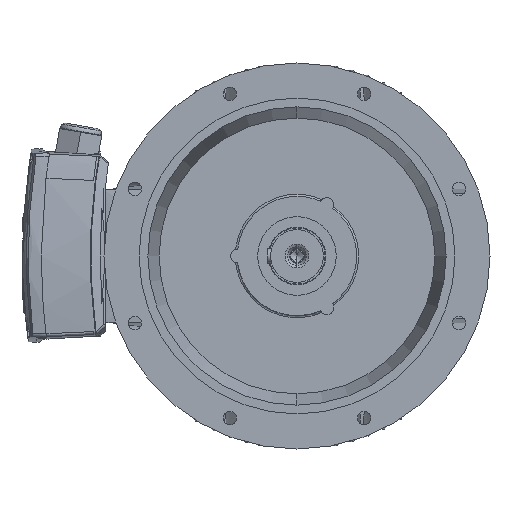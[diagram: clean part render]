
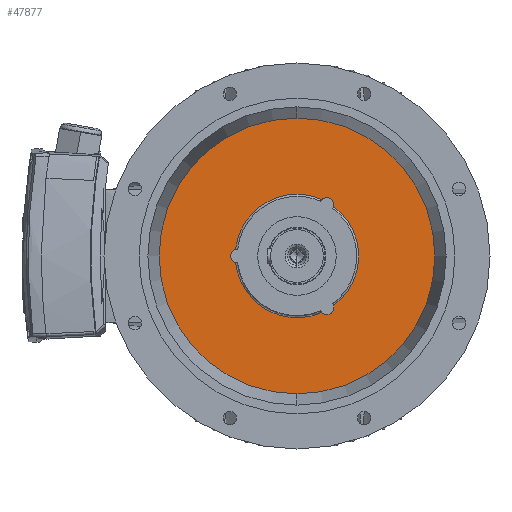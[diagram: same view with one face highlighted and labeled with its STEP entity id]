
A CAD part, left-side view. The second image highlights one B-rep face of the part: STEP entity #47877.
In plain terms, the highlighted planar face has unit normal (-1, 0, 0) as drawn and (0, 0, 1) by its records, which use the part's own axes.
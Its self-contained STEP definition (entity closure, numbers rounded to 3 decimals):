
#46221=CARTESIAN_POINT('',(0.,0.,-13.));
#46222=DIRECTION('',(0.,0.,1.));
#46223=DIRECTION('',(1.,0.,0.));
#46224=AXIS2_PLACEMENT_3D('',#46221,#46222,#46223);
#46226=CARTESIAN_POINT('',(0.,0.,-13.));
#46227=DIRECTION('',(0.,0.,1.));
#46228=DIRECTION('',(-1.,0.,0.));
#46229=AXIS2_PLACEMENT_3D('',#46226,#46227,#46228);
#46231=CARTESIAN_POINT('',(0.,0.,-13.));
#46232=DIRECTION('',(0.,0.,-1.));
#46233=DIRECTION('',(-0.107,-0.994,0.));
#46234=AXIS2_PLACEMENT_3D('',#46231,#46232,#46233);
#46236=CARTESIAN_POINT('',(0.,-85.,-13.));
#46237=DIRECTION('',(0.,0.,-1.));
#46238=DIRECTION('',(0.966,-0.257,0.));
#46239=AXIS2_PLACEMENT_3D('',#46236,#46237,#46238);
#46241=CARTESIAN_POINT('',(0.,0.,-13.));
#46242=DIRECTION('',(0.,0.,-1.));
#46243=DIRECTION('',(0.914,0.405,0.));
#46244=AXIS2_PLACEMENT_3D('',#46241,#46242,#46243);
#46246=CARTESIAN_POINT('',(73.612,42.5,-13.));
#46247=DIRECTION('',(0.,0.,-1.));
#46248=DIRECTION('',(1.,0.,0.));
#46249=AXIS2_PLACEMENT_3D('',#46246,#46247,#46248);
#46251=CARTESIAN_POINT('',(73.612,42.5,-13.));
#46252=DIRECTION('',(0.,0.,-1.));
#46253=DIRECTION('',(-0.261,0.965,0.));
#46254=AXIS2_PLACEMENT_3D('',#46251,#46252,#46253);
#46256=CARTESIAN_POINT('',(0.,0.,-13.));
#46257=DIRECTION('',(0.,0.,-1.));
#46258=DIRECTION('',(-0.808,0.59,0.));
#46259=AXIS2_PLACEMENT_3D('',#46256,#46257,#46258);
#46261=CARTESIAN_POINT('',(-73.612,42.5,-13.));
#46262=DIRECTION('',(0.,0.,-1.));
#46263=DIRECTION('',(-0.706,-0.708,0.));
#46264=AXIS2_PLACEMENT_3D('',#46261,#46262,#46263);
#46266=CARTESIAN_POINT('',(0.,0.,-13.));
#46267=DIRECTION('',(0.,0.,-1.));
#46268=DIRECTION('',(-1.,0.,0.));
#46269=AXIS2_PLACEMENT_3D('',#46266,#46267,#46268);
#46283=CARTESIAN_POINT('',(-9.391,-87.498,-13.));
#46382=CARTESIAN_POINT('',(-71.08,51.881,-13.));
#46568=CARTESIAN_POINT('',(80.47,35.616,-13.));
#46569=CARTESIAN_POINT('',(9.391,-87.498,-13.));
#46570=VERTEX_POINT('',#46568);
#46571=VERTEX_POINT('',#46569);
#46585=VERTEX_POINT('',#46283);
#46592=VERTEX_POINT('',#46382);
#46593=CARTESIAN_POINT('',(-80.47,35.616,-13.));
#46594=VERTEX_POINT('',#46593);
#46608=CARTESIAN_POINT('',(83.329,42.5,-13.));
#46609=VERTEX_POINT('',#46608);
#46610=CARTESIAN_POINT('',(71.08,51.881,-13.));
#46611=VERTEX_POINT('',#46610);
#46612=CARTESIAN_POINT('',(-88.,0.,-13.));
#46613=VERTEX_POINT('',#46612);
#46842=CARTESIAN_POINT('',(-196.423,0.,-13.));
#46844=VERTEX_POINT('',#46842);
#46846=CARTESIAN_POINT('',(196.423,0.,-13.));
#46848=VERTEX_POINT('',#46846);
#47849=CARTESIAN_POINT('',(0.,88.,-13.));
#47850=DIRECTION('',(0.,0.,-1.));
#47851=DIRECTION('',(-1.,0.,0.));
#47852=AXIS2_PLACEMENT_3D('',#47849,#47850,#47851);
#47853=PLANE('',#47852);
#47855=ORIENTED_EDGE('',*,*,#47854,.F.);
#47856=ORIENTED_EDGE('',*,*,#47839,.F.);
#47857=EDGE_LOOP('',(#47855,#47856));
#47858=FACE_OUTER_BOUND('',#47857,.F.);
#47860=ORIENTED_EDGE('',*,*,#47859,.F.);
#47862=ORIENTED_EDGE('',*,*,#47861,.F.);
#47864=ORIENTED_EDGE('',*,*,#47863,.F.);
#47866=ORIENTED_EDGE('',*,*,#47865,.F.);
#47868=ORIENTED_EDGE('',*,*,#47867,.F.);
#47870=ORIENTED_EDGE('',*,*,#47869,.F.);
#47872=ORIENTED_EDGE('',*,*,#47871,.F.);
#47874=ORIENTED_EDGE('',*,*,#47873,.F.);
#47875=EDGE_LOOP('',(#47860,#47862,#47864,#47866,#47868,#47870,#47872,#47874));
#47876=FACE_BOUND('',#47875,.F.);
#46225=CIRCLE('',#46224,196.423);
#46230=CIRCLE('',#46229,196.423);
#46235=CIRCLE('',#46234,88.);
#46240=CIRCLE('',#46239,9.717);
#46245=CIRCLE('',#46244,88.);
#46250=CIRCLE('',#46249,9.717);
#46255=CIRCLE('',#46254,9.717);
#46260=CIRCLE('',#46259,88.);
#46265=CIRCLE('',#46264,9.717);
#46270=CIRCLE('',#46269,88.);
#47839=EDGE_CURVE('',#46844,#46848,#46230,.T.);
#47854=EDGE_CURVE('',#46848,#46844,#46225,.T.);
#47859=EDGE_CURVE('',#46585,#46613,#46235,.T.);
#47861=EDGE_CURVE('',#46571,#46585,#46240,.T.);
#47863=EDGE_CURVE('',#46570,#46571,#46245,.T.);
#47865=EDGE_CURVE('',#46609,#46570,#46250,.T.);
#47867=EDGE_CURVE('',#46611,#46609,#46255,.T.);
#47869=EDGE_CURVE('',#46592,#46611,#46260,.T.);
#47871=EDGE_CURVE('',#46594,#46592,#46265,.T.);
#47873=EDGE_CURVE('',#46613,#46594,#46270,.T.);
#47877=ADVANCED_FACE('',(#47858,#47876),#47853,.F.);
